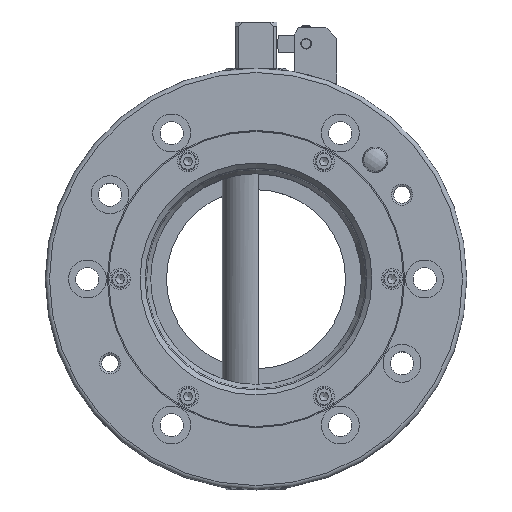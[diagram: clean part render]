
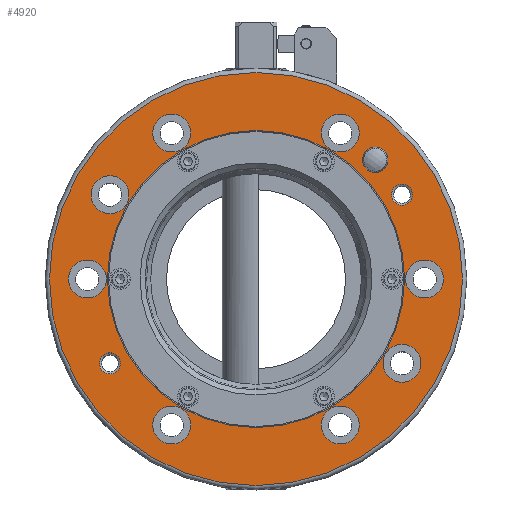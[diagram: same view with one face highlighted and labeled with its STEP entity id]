
A CAD part, top view. The second image highlights one B-rep face of the part: STEP entity #4920.
In plain terms, the highlighted planar face has unit normal (0, 0, 1).
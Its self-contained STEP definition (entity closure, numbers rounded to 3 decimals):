
#484=CIRCLE('',#5280,70.5);
#499=CIRCLE('',#5306,5.);
#501=CIRCLE('',#5310,5.);
#515=CIRCLE('',#5328,9.);
#516=CIRCLE('',#5329,9.);
#517=CIRCLE('',#5330,9.);
#518=CIRCLE('',#5331,9.);
#519=CIRCLE('',#5332,9.);
#520=CIRCLE('',#5333,9.);
#521=CIRCLE('',#5334,9.);
#522=CIRCLE('',#5335,9.);
#523=CIRCLE('',#5336,6.);
#524=CIRCLE('',#5337,98.);
#749=PLANE('',#5327);
#975=FACE_BOUND('',#1298,.T.);
#976=FACE_BOUND('',#1299,.T.);
#977=FACE_BOUND('',#1300,.T.);
#978=FACE_BOUND('',#1301,.T.);
#979=FACE_BOUND('',#1302,.T.);
#980=FACE_BOUND('',#1303,.T.);
#981=FACE_BOUND('',#1304,.T.);
#982=FACE_BOUND('',#1305,.T.);
#983=FACE_BOUND('',#1306,.T.);
#984=FACE_BOUND('',#1307,.T.);
#985=FACE_BOUND('',#1308,.T.);
#986=FACE_BOUND('',#1309,.T.);
#987=FACE_BOUND('',#1310,.T.);
#1298=EDGE_LOOP('',(#3404));
#1299=EDGE_LOOP('',(#3405));
#1300=EDGE_LOOP('',(#3406));
#1301=EDGE_LOOP('',(#3407));
#1302=EDGE_LOOP('',(#3408));
#1303=EDGE_LOOP('',(#3409));
#1304=EDGE_LOOP('',(#3410));
#1305=EDGE_LOOP('',(#3411));
#1306=EDGE_LOOP('',(#3412));
#1307=EDGE_LOOP('',(#3413));
#1308=EDGE_LOOP('',(#3414));
#1309=EDGE_LOOP('',(#3415));
#1310=EDGE_LOOP('',(#3416));
#2257=VERTEX_POINT('',#7528);
#2272=VERTEX_POINT('',#7569);
#2274=VERTEX_POINT('',#7575);
#2288=VERTEX_POINT('',#7607);
#2289=VERTEX_POINT('',#7609);
#2290=VERTEX_POINT('',#7611);
#2291=VERTEX_POINT('',#7613);
#2292=VERTEX_POINT('',#7615);
#2293=VERTEX_POINT('',#7617);
#2294=VERTEX_POINT('',#7619);
#2295=VERTEX_POINT('',#7621);
#2296=VERTEX_POINT('',#7623);
#2297=VERTEX_POINT('',#7625);
#2721=EDGE_CURVE('',#2257,#2257,#484,.T.);
#2736=EDGE_CURVE('',#2272,#2272,#499,.T.);
#2738=EDGE_CURVE('',#2274,#2274,#501,.T.);
#2752=EDGE_CURVE('',#2288,#2288,#515,.T.);
#2753=EDGE_CURVE('',#2289,#2289,#516,.T.);
#2754=EDGE_CURVE('',#2290,#2290,#517,.T.);
#2755=EDGE_CURVE('',#2291,#2291,#518,.T.);
#2756=EDGE_CURVE('',#2292,#2292,#519,.T.);
#2757=EDGE_CURVE('',#2293,#2293,#520,.T.);
#2758=EDGE_CURVE('',#2294,#2294,#521,.T.);
#2759=EDGE_CURVE('',#2295,#2295,#522,.T.);
#2760=EDGE_CURVE('',#2296,#2296,#523,.T.);
#2761=EDGE_CURVE('',#2297,#2297,#524,.T.);
#3404=ORIENTED_EDGE('',*,*,#2752,.T.);
#3405=ORIENTED_EDGE('',*,*,#2753,.T.);
#3406=ORIENTED_EDGE('',*,*,#2754,.T.);
#3407=ORIENTED_EDGE('',*,*,#2755,.T.);
#3408=ORIENTED_EDGE('',*,*,#2756,.T.);
#3409=ORIENTED_EDGE('',*,*,#2757,.T.);
#3410=ORIENTED_EDGE('',*,*,#2758,.T.);
#3411=ORIENTED_EDGE('',*,*,#2759,.T.);
#3412=ORIENTED_EDGE('',*,*,#2721,.T.);
#3413=ORIENTED_EDGE('',*,*,#2760,.T.);
#3414=ORIENTED_EDGE('',*,*,#2736,.T.);
#3415=ORIENTED_EDGE('',*,*,#2738,.T.);
#3416=ORIENTED_EDGE('',*,*,#2761,.F.);
#4920=ADVANCED_FACE('',(#975,#976,#977,#978,#979,#980,#981,#982,#983,#984,
#985,#986,#987),#749,.F.);
#5280=AXIS2_PLACEMENT_3D('',#7529,#5968,#5969);
#5306=AXIS2_PLACEMENT_3D('',#7570,#6020,#6021);
#5310=AXIS2_PLACEMENT_3D('',#7576,#6028,#6029);
#5327=AXIS2_PLACEMENT_3D('',#7606,#6062,#6063);
#5328=AXIS2_PLACEMENT_3D('',#7608,#6064,#6065);
#5329=AXIS2_PLACEMENT_3D('',#7610,#6066,#6067);
#5330=AXIS2_PLACEMENT_3D('',#7612,#6068,#6069);
#5331=AXIS2_PLACEMENT_3D('',#7614,#6070,#6071);
#5332=AXIS2_PLACEMENT_3D('',#7616,#6072,#6073);
#5333=AXIS2_PLACEMENT_3D('',#7618,#6074,#6075);
#5334=AXIS2_PLACEMENT_3D('',#7620,#6076,#6077);
#5335=AXIS2_PLACEMENT_3D('',#7622,#6078,#6079);
#5336=AXIS2_PLACEMENT_3D('',#7624,#6080,#6081);
#5337=AXIS2_PLACEMENT_3D('',#7626,#6082,#6083);
#5968=DIRECTION('center_axis',(0.,0.,-1.));
#5969=DIRECTION('ref_axis',(-1.,0.,0.));
#6020=DIRECTION('center_axis',(0.,0.,-1.));
#6021=DIRECTION('ref_axis',(1.,0.,0.));
#6028=DIRECTION('center_axis',(0.,0.,-1.));
#6029=DIRECTION('ref_axis',(1.,0.,0.));
#6062=DIRECTION('center_axis',(0.,0.,-1.));
#6063=DIRECTION('ref_axis',(-1.,0.,0.));
#6064=DIRECTION('center_axis',(0.,0.,-1.));
#6065=DIRECTION('ref_axis',(1.,0.,0.));
#6066=DIRECTION('center_axis',(0.,0.,-1.));
#6067=DIRECTION('ref_axis',(1.,0.,0.));
#6068=DIRECTION('center_axis',(0.,0.,-1.));
#6069=DIRECTION('ref_axis',(1.,0.,0.));
#6070=DIRECTION('center_axis',(0.,0.,-1.));
#6071=DIRECTION('ref_axis',(1.,0.,0.));
#6072=DIRECTION('center_axis',(0.,0.,-1.));
#6073=DIRECTION('ref_axis',(1.,0.,0.));
#6074=DIRECTION('center_axis',(0.,0.,-1.));
#6075=DIRECTION('ref_axis',(1.,0.,0.));
#6076=DIRECTION('center_axis',(0.,0.,-1.));
#6077=DIRECTION('ref_axis',(1.,0.,0.));
#6078=DIRECTION('center_axis',(0.,0.,-1.));
#6079=DIRECTION('ref_axis',(1.,0.,0.));
#6080=DIRECTION('center_axis',(0.,0.,-1.));
#6081=DIRECTION('ref_axis',(1.,0.,0.));
#6082=DIRECTION('center_axis',(0.,0.,-1.));
#6083=DIRECTION('ref_axis',(-1.,0.,0.));
#7528=CARTESIAN_POINT('',(70.5,0.,32.5));
#7529=CARTESIAN_POINT('Origin',(0.,0.,32.5));
#7569=CARTESIAN_POINT('',(-64.282,-40.,32.5));
#7570=CARTESIAN_POINT('Origin',(-69.282,-40.,32.5));
#7575=CARTESIAN_POINT('',(74.282,40.,32.5));
#7576=CARTESIAN_POINT('Origin',(69.282,40.,32.5));
#7606=CARTESIAN_POINT('Origin',(0.,0.,32.5));
#7607=CARTESIAN_POINT('',(-60.282,40.,32.5));
#7608=CARTESIAN_POINT('Origin',(-69.282,40.,32.5));
#7609=CARTESIAN_POINT('',(49.,69.282,32.5));
#7610=CARTESIAN_POINT('Origin',(40.,69.282,32.5));
#7611=CARTESIAN_POINT('',(78.282,-40.,32.5));
#7612=CARTESIAN_POINT('Origin',(69.282,-40.,32.5));
#7613=CARTESIAN_POINT('',(-31.,-69.282,32.5));
#7614=CARTESIAN_POINT('Origin',(-40.,-69.282,32.5));
#7615=CARTESIAN_POINT('',(49.,-69.282,32.5));
#7616=CARTESIAN_POINT('Origin',(40.,-69.282,32.5));
#7617=CARTESIAN_POINT('',(89.,0.,32.5));
#7618=CARTESIAN_POINT('Origin',(80.,0.,32.5));
#7619=CARTESIAN_POINT('',(-31.,69.282,32.5));
#7620=CARTESIAN_POINT('Origin',(-40.,69.282,32.5));
#7621=CARTESIAN_POINT('',(-71.,0.,32.5));
#7622=CARTESIAN_POINT('Origin',(-80.,0.,32.5));
#7623=CARTESIAN_POINT('',(62.569,56.569,32.5));
#7624=CARTESIAN_POINT('Origin',(56.569,56.569,32.5));
#7625=CARTESIAN_POINT('',(98.,0.,32.5));
#7626=CARTESIAN_POINT('Origin',(0.,0.,32.5));
